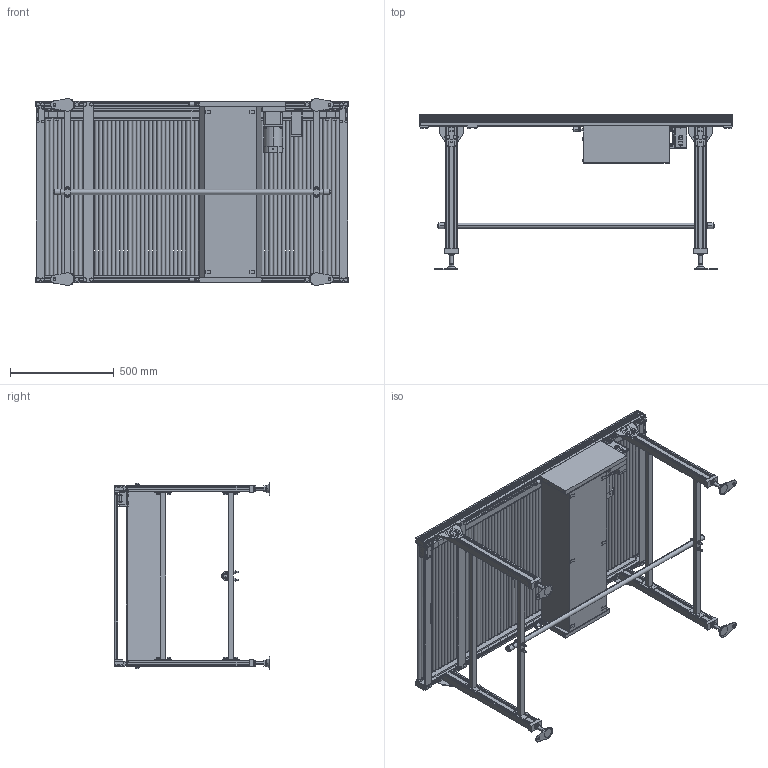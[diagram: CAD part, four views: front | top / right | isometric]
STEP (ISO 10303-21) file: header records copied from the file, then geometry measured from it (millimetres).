
FILE_DESCRIPTION (( 'STEP AP214' ), '1' );
FILE_NAME ('MRA1-309-800-150-IV-180-O.STEP', '2023-05-09T04:24:06', ( '' ), ( '' ), 'SwSTEP 2.0', 'SolidWorks 2017', '' );
FILE_SCHEMA (( 'AUTOMOTIVE_DESIGN' ));
Length unit declared in the file: millimetre
Products named in the file (1): MRA1-309-800-150-IV-180-O
Bounding box: 1510 x 750 x 900.98 mm (x, y, z)
Volume: 74864533.1 mm3; surface area: 7648013.7 mm2
Topology: 41 solids, 41 shells, 2906 faces, 7072 edges, 4556 vertices
Faces by surface type: plane 1741, cylinder 1004, cone 96, torus 28, bspline 27, sphere 10
Entity records: 86777 total; most frequent: CARTESIAN_POINT 15857, DIRECTION 15002, ORIENTED_EDGE 14096, EDGE_CURVE 7048, AXIS2_PLACEMENT_3D 5183, VECTOR 4636, LINE 4636, VERTEX_POINT 4556
